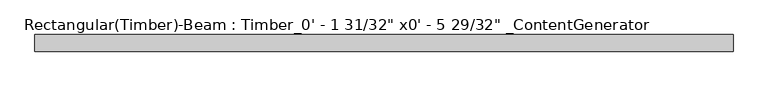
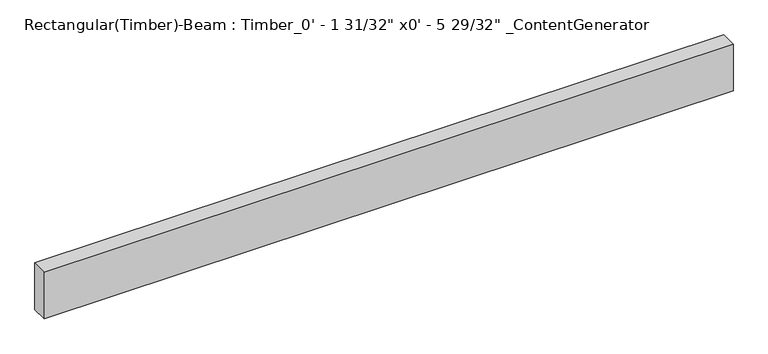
"""IFC4 building model written with IfcOpenShell, lengths in millimetres: beam geometry."""

from ifc_helpers import new_model, si_unit, frame, origin, place, context, project, spatial, polyline, outline, extrude, source, transform, mapped, element, save


def beam_bfada912(model_context):
    return source(origin(), model_context, "Body", "SweptSolid", [
        extrude(outline(polyline([(1041.4, 25.4), (1041.4, -25.4), (-1092.2, -25.4), (-1092.2, 25.4), (1041.4, 25.4)])), frame((0.0, 0.0, -76.2), z_axis=(0.0, 0.0, 1.0), x_axis=(1.0, 0.0, 0.0)), (0.0, 0.0, 1.0), 152.4),
    ])


if __name__ == "__main__":
    model = new_model("IFC4")
    model_context = context("Model", 3, world=origin())
    ifc_project = project(units=[si_unit("LENGTHUNIT", "METRE", prefix="MILLI")], contexts=[model_context])
    site = spatial("IfcSite", under=ifc_project)
    building = spatial("IfcBuilding", under=site)
    placement = place(None, origin())
    beam_shape = beam_bfada912(model_context)
    element("IfcBeam", 1, ObjectType="Rectangular(Timber)-Beam : Timber_0' - 1 31/32\" x0' - 5 29/32\" _ContentGenerator", at=placement, inside=building, context=model_context, shape_type="MappedRepresentation", body=[
        mapped(beam_shape, transform((0.0, 0.0, 0.0), x_axis=(1.0, 0.0, 0.0), y_axis=(0.0, 1.0, 0.0), z_axis=(0.0, 0.0, 1.0))),
    ])
    save(model, "model.ifc")
